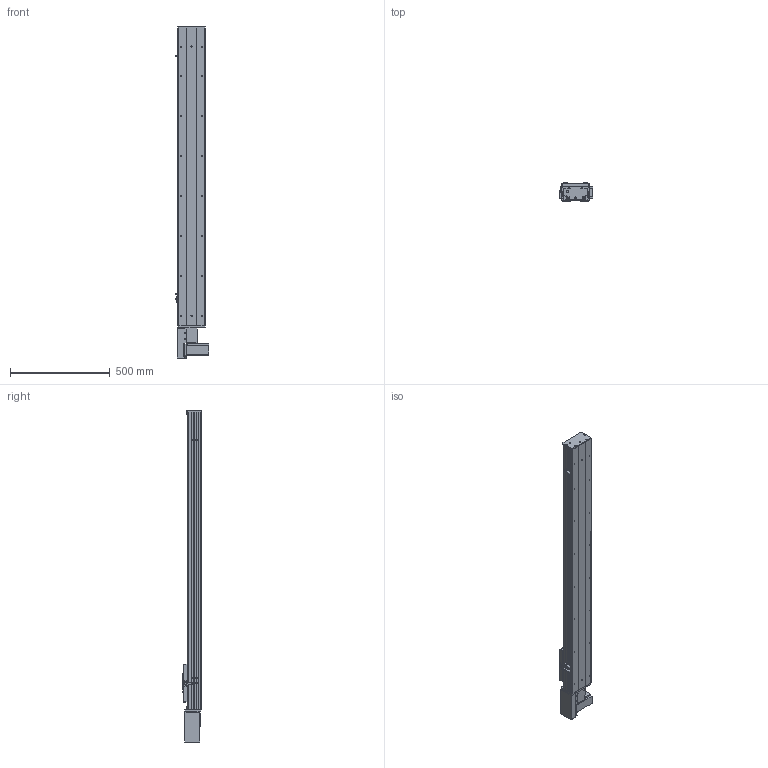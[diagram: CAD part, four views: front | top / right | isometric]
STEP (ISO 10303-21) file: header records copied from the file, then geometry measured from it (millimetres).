
FILE_DESCRIPTION (( 'STEP AP203' ), '1' );
FILE_NAME ('Y135CB-D90-S1200-BR-P400W.STEP', '2020-02-18T02:33:08', ( '微软用户' ), ( '微软中国' ), 'SwSTEP 2.0', 'SolidWorks 2017', '' );
FILE_SCHEMA (( 'CONFIG_CONTROL_DESIGN' ));
Length unit declared in the file: millimetre
Products named in the file (18): Y10B-耜蚾蟀諉啣----; 5C--俋欶; Y俋欶BR----; C-雄赽釱--; 0B-埴倛裔啣; Y10B--々湍喘謫眊--666; 0B-源倛裔啣; Y135CB-D90-S1200-BR-P400W; 0B-萇儂楊擘啣; san松下电机400不带刹车----; Y135CB-耜裔; 135CB--詩湍-CE; 5CB --掛极耜裔啣-; 135CB---遴掛极.-; Y100-135俋离換覜ん--; C-詩湍揤踡え-陔; 35CB---喘謫眊楊擘啣; Y135C-陔俋离換覜結え-
Assembly tree (21 placements, depth 2):
  Y135CB-D90-S1200-BR-P400W
    Y135CB-耜裔
    135CB---遴掛极.-
    35CB---喘謫眊楊擘啣
    Y10B-耜蚾蟀諉啣----
    Y俋欶BR----
    0B-埴倛裔啣
    0B-源倛裔啣
    0B-萇儂楊擘啣
    san松下电机400不带刹车----
    5CB --掛极耜裔啣-  x2
    C-詩湍揤踡え-陔  x2
    135CB--詩湍-CE
    Y100-135俋离換覜ん--  x3
    Y135C-陔俋离換覜結え-
    5C--俋欶
    C-雄赽釱--
    Y10B--々湍喘謫眊--666
Bounding box: 167.5 x 91 x 1664.5 mm (x, y, z)
Volume: 4906684.6 mm3; surface area: 1925829.9 mm2
Topology: 21 solids, 21 shells, 949 faces, 2545 edges, 1686 vertices
Faces by surface type: cylinder 475, plane 458, cone 16
Entity records: 29543 total; most frequent: DIRECTION 4905, CARTESIAN_POINT 4856, ORIENTED_EDGE 4566, EDGE_CURVE 2283, AXIS2_PLACEMENT_3D 1787, VERTEX_POINT 1514, LINE 1331, VECTOR 1331
